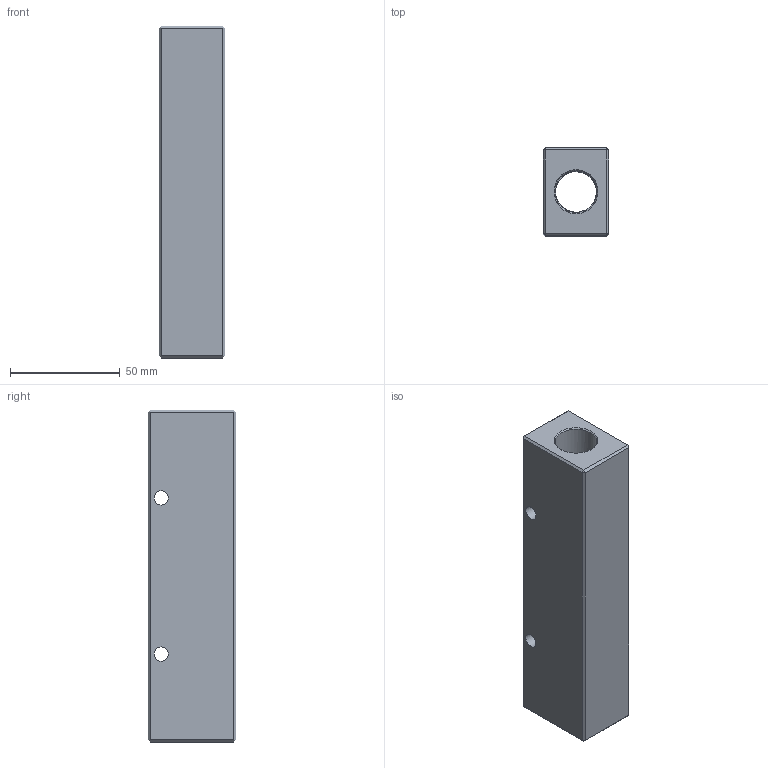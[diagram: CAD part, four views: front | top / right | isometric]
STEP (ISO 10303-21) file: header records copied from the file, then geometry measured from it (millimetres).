
FILE_DESCRIPTION(/* description */ (''),/* implementation_level */ '2;1');
FILE_NAME(/* name */ 'BXH89 2B4 08B2.stp',/* time_stamp */ '2024-11-17T13:56:15+01:00',/* author */ ('freju'),/* organization */ (''),/* preprocessor_version */ 'ST-DEVELOPER v20',/* originating_system */ 'Autodesk Inventor 2025',/* authorisation */ '');
FILE_SCHEMA (('AUTOMOTIVE_DESIGN { 1 0 10303 214 3 1 1 }'));
Length unit declared in the file: millimetre
Products named in the file (1): BXH89 2B4 08B2
Bounding box: 30 x 40 x 151 mm (x, y, z)
Volume: 132612.6 mm3; surface area: 33171 mm2
Topology: 1 solids, 1 shells, 43 faces, 104 edges, 61 vertices
Faces by surface type: plane 28, cylinder 9, cone 6
Full cylindrical faces by diameter (mm): 6.5 x2, 11.8 x4, 18.5 x1, 19 x2
Entity records: 1424 total; most frequent: CARTESIAN_POINT 348, DIRECTION 215, ORIENTED_EDGE 208, EDGE_CURVE 104, AXIS2_PLACEMENT_3D 74, LINE 67, VECTOR 67, VERTEX_POINT 61
